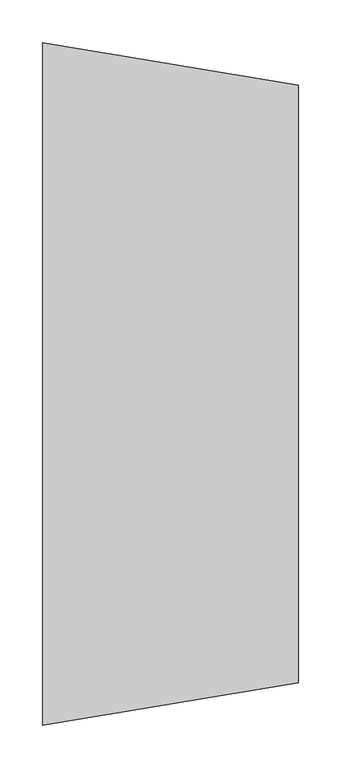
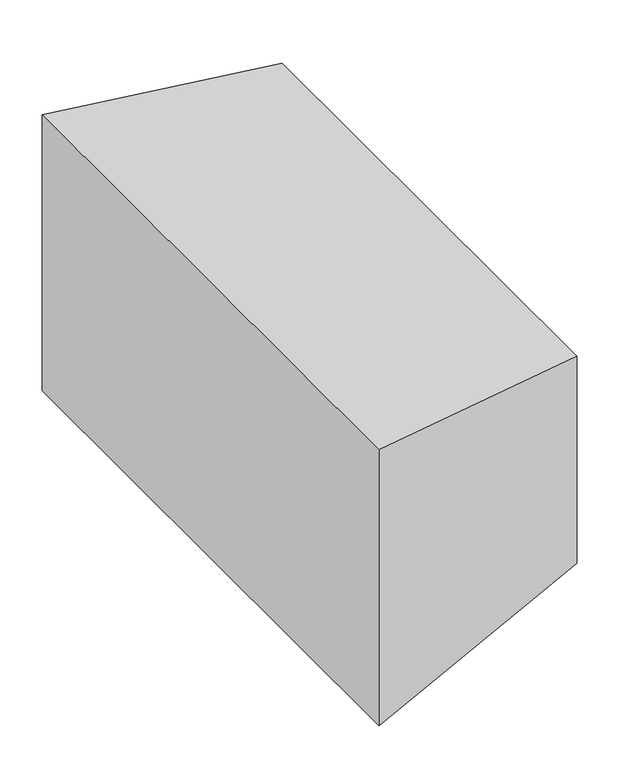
"""IFC4 building model written with IfcOpenShell, lengths in millimetres: duct fitting geometry, ADSK_ПереходникВоздуховодов_Прямоугольный1 : Стандартное 2."""

from ifc_helpers import new_model, si_unit, origin, place, context, project, spatial, faceted_brep, source, transform, mapped, element, save


def duct_fitting_d42f94aa(model_context):
    return source(origin(), model_context, "Body", "Brep", [
        faceted_brep([(300.0, -350.0, 200.0), (300.0, -350.0, -100.0), (300.0, 350.0, -100.0), (300.0, 350.0, 200.0), (0.0, -400.0, 200.0), (0.0, 400.0, 200.0), (0.0, 400.0, -200.0), (0.0, -400.0, -200.0)], [[[0, 1, 2, 3]], [[4, 5, 6, 7]], [[4, 7, 1, 0]], [[7, 6, 2, 1]], [[6, 5, 3, 2]], [[5, 4, 0, 3]]]),
    ])


if __name__ == "__main__":
    model = new_model("IFC4")
    model_context = context("Model", 3, world=origin())
    ifc_project = project(units=[si_unit("LENGTHUNIT", "METRE", prefix="MILLI")], contexts=[model_context])
    site = spatial("IfcSite", under=ifc_project)
    building = spatial("IfcBuilding", under=site)
    placement = place(None, origin())
    duct_fitting_shape = duct_fitting_d42f94aa(model_context)
    element("IfcDuctFitting", 1, ObjectType="ADSK_ПереходникВоздуховодов_Прямоугольный1 : Стандартное 2", at=placement, inside=building, context=model_context, shape_type="MappedRepresentation", body=[
        mapped(duct_fitting_shape, transform((0.0, 0.0, 0.0), x_axis=(1.0, 0.0, 0.0), y_axis=(0.0, 1.0, 0.0), z_axis=(0.0, 0.0, 1.0))),
    ])
    save(model, "model.ifc")
